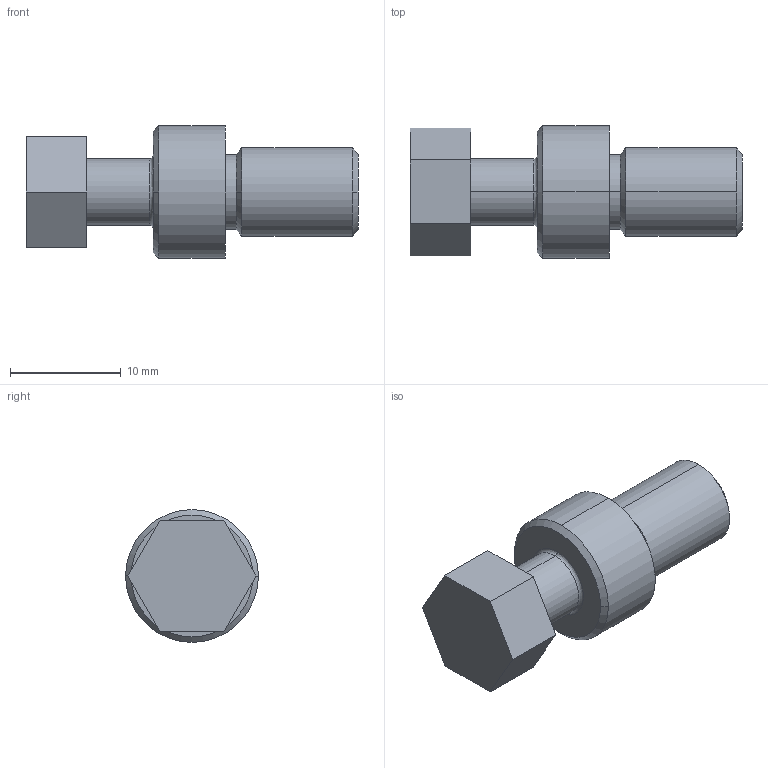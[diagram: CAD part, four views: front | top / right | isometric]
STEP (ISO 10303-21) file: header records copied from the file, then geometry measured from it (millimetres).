
FILE_DESCRIPTION (( 'STEP AP203' ), '1' );
FILE_NAME ('013 Vis de Verouillage.STEP', '2021-10-27T18:22:28', ( '' ), ( '' ), 'SwSTEP 2.0', 'SolidWorks 2019', '' );
FILE_SCHEMA (( 'CONFIG_CONTROL_DESIGN' ));
Length unit declared in the file: millimetre
Products named in the file (1): 013 Vis de Verouillage
Bounding box: 30 x 12 x 12 mm (x, y, z)
Volume: 1958.2 mm3; surface area: 1187.4 mm2
Topology: 1 solids, 1 shells, 27 faces, 64 edges, 42 vertices
Faces by surface type: plane 11, bspline 8, cylinder 8
Entity records: 911 total; most frequent: CARTESIAN_POINT 206, DIRECTION 136, ORIENTED_EDGE 128, EDGE_CURVE 64, AXIS2_PLACEMENT_3D 52, VERTEX_POINT 42, CIRCLE 32, LINE 32
